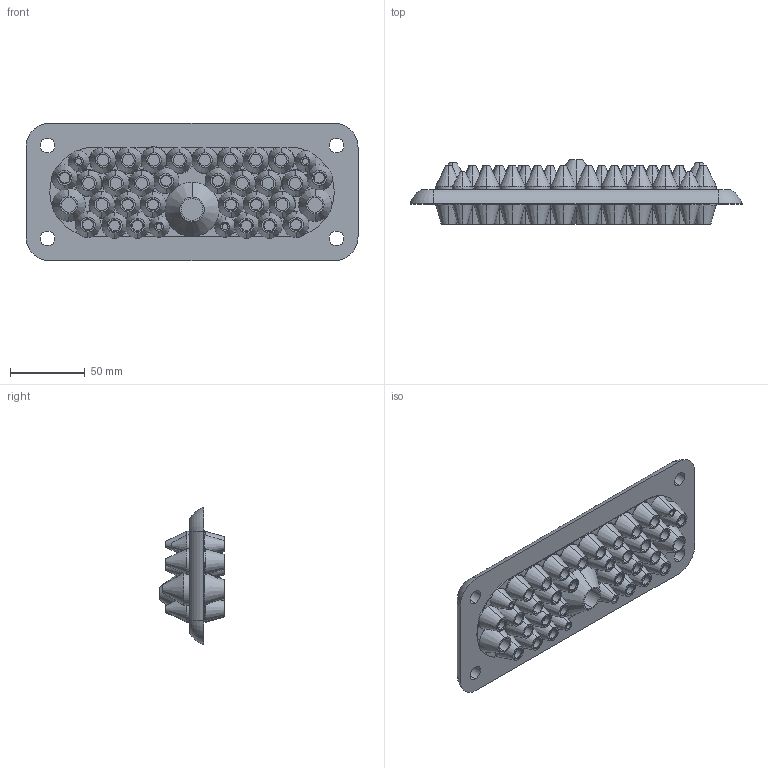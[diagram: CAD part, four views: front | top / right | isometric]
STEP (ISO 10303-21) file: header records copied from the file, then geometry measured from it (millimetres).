
FILE_DESCRIPTION (( 'STEP AP203' ), '1' );
FILE_NAME ('103589.STEP', '2012-12-04T10:29:03', ( 'Joni' ), ( 'Hewlett-Packard Company' ), 'SwSTEP 2.0', 'SolidWorks 2012', '' );
FILE_SCHEMA (( 'CONFIG_CONTROL_DESIGN' ));
Length unit declared in the file: millimetre
Products named in the file (1): 103589
Bounding box: 221.75 x 43 x 91.75 mm (x, y, z)
Volume: 281467.1 mm3; surface area: 102000.2 mm2
Topology: 1 solids, 49 shells, 1234 faces, 2958 edges, 1787 vertices
Faces by surface type: cylinder 535, plane 272, cone 222, torus 205
Entity records: 37347 total; most frequent: CARTESIAN_POINT 8281, DIRECTION 6754, ORIENTED_EDGE 5768, AXIS2_PLACEMENT_3D 2972, EDGE_CURVE 2884, VERTEX_POINT 1787, CIRCLE 1737, EDGE_LOOP 1281
